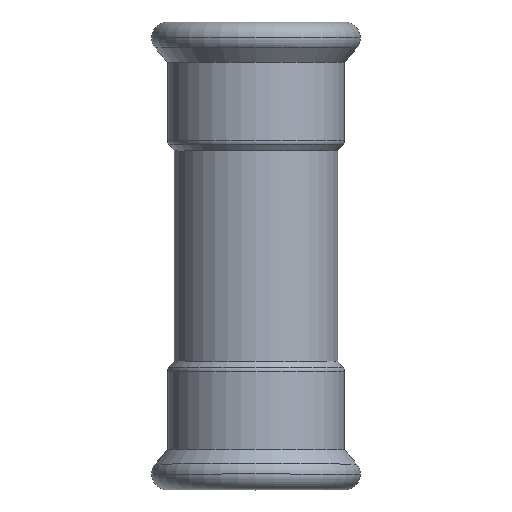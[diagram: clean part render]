
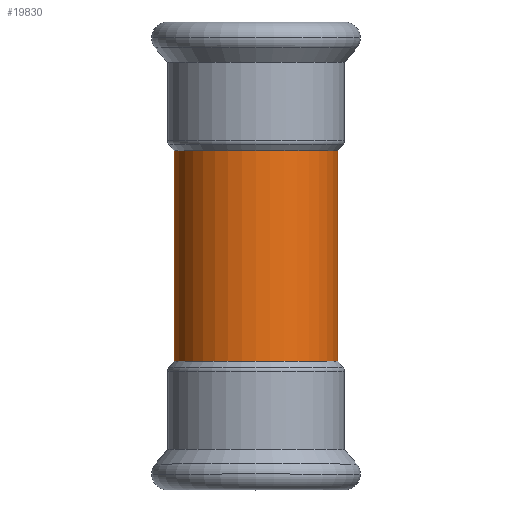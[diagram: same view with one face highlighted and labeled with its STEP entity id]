
A CAD part, top view. The second image highlights one B-rep face of the part: STEP entity #19830.
In plain terms, the highlighted cylindrical face has radius 21 mm (diameter 42 mm), a partial arc.
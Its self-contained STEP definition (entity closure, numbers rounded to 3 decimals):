
#13350=CARTESIAN_POINT('',(-319.291,12.435,
-27.));
#13360=DIRECTION('',(0.,0.,-1.));
#13370=DIRECTION('',(1.,0.,0.));
#13380=AXIS2_PLACEMENT_3D('',#13350,#13360,#13370);
#13390=CYLINDRICAL_SURFACE('',#13380,21.);
#19470=CARTESIAN_POINT('',(-298.291,12.435,
-27.));
#19480=DIRECTION('',(0.,0.,-1.));
#19490=VECTOR('',#19480,1.);
#19500=LINE('',#19470,#19490);
#19510=CARTESIAN_POINT('',(-298.291,12.435,
27.));
#19520=VERTEX_POINT('',#19510);
#19530=CARTESIAN_POINT('',(-298.291,12.435,
-27.));
#19540=VERTEX_POINT('',#19530);
#19550=EDGE_CURVE('',#19520,#19540,#19500,.T.);
#19560=ORIENTED_EDGE('',*,*,#19550,.F.);
#19570=CARTESIAN_POINT('',(-319.291,12.435,
-27.));
#19580=DIRECTION('',(0.,0.,-1.));
#19590=DIRECTION('',(1.,0.,0.));
#19600=AXIS2_PLACEMENT_3D('',#19570,#19580,#19590);
#19610=CIRCLE('',#19600,21.);
#19620=CARTESIAN_POINT('',(-340.291,12.435,
-27.));
#19630=VERTEX_POINT('',#19620);
#19640=EDGE_CURVE('',#19540,#19630,#19610,.T.);
#19650=ORIENTED_EDGE('',*,*,#19640,.F.);
#19660=CARTESIAN_POINT('',(-340.291,12.435,
-27.));
#19670=DIRECTION('',(0.,0.,-1.));
#19680=VECTOR('',#19670,1.);
#19690=LINE('',#19660,#19680);
#19700=CARTESIAN_POINT('',(-340.291,12.435,
27.));
#19710=VERTEX_POINT('',#19700);
#19720=EDGE_CURVE('',#19710,#19630,#19690,.T.);
#19730=ORIENTED_EDGE('',*,*,#19720,.T.);
#19740=CARTESIAN_POINT('',(-319.291,12.435,
27.));
#19750=DIRECTION('',(0.,0.,-1.));
#19760=DIRECTION('',(1.,0.,0.));
#19770=AXIS2_PLACEMENT_3D('',#19740,#19750,#19760);
#19780=CIRCLE('',#19770,21.);
#19790=EDGE_CURVE('',#19520,#19710,#19780,.T.);
#19800=ORIENTED_EDGE('',*,*,#19790,.T.);
#19810=EDGE_LOOP('',(#19800,#19730,#19650,#19560));
#19820=FACE_OUTER_BOUND('',#19810,.T.);
#19830=ADVANCED_FACE('',(#19820),#13390,.T.);
